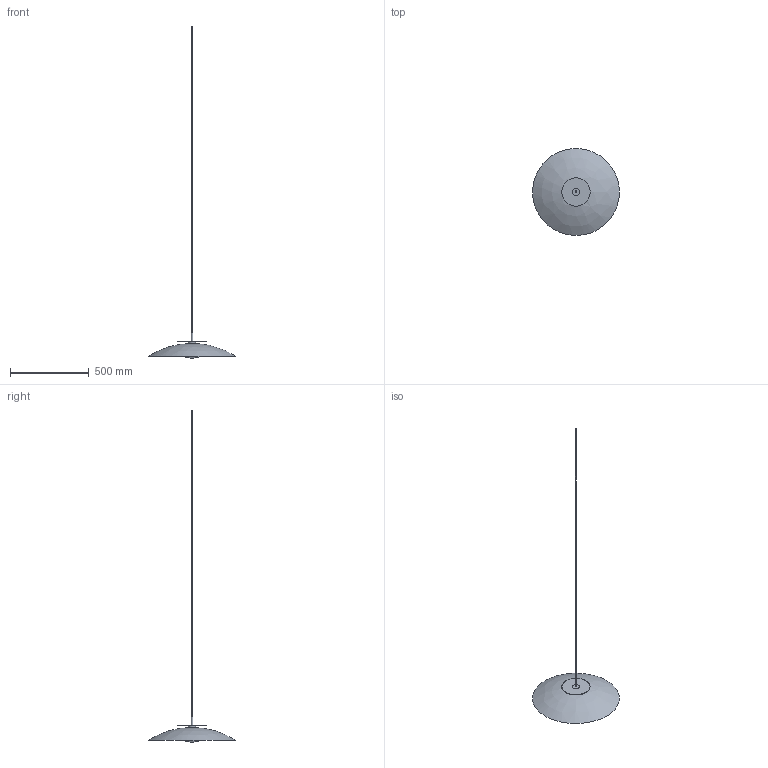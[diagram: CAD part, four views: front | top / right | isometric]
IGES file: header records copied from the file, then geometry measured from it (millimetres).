
Global section: file name: /Users/064_p/Desktop/3d data_02/ILKW_SATURN55_V2_Pendant_3D.igs; native system: Rhinoceros ( Jul  7 2025 ); preprocessor: Trout Lake IGES 012 Jul  7 2025; date: 260828.071534; units: millimetre
Bounding box: 550.64 x 550.28 x 2103.8 mm (x, y, z)
Surface area: 384686.8 mm2 (no closed solid volume)
Topology: 0 solids, 0 shells, 17 faces, 94 edges, 84 vertices
Faces by surface type: bspline 17
